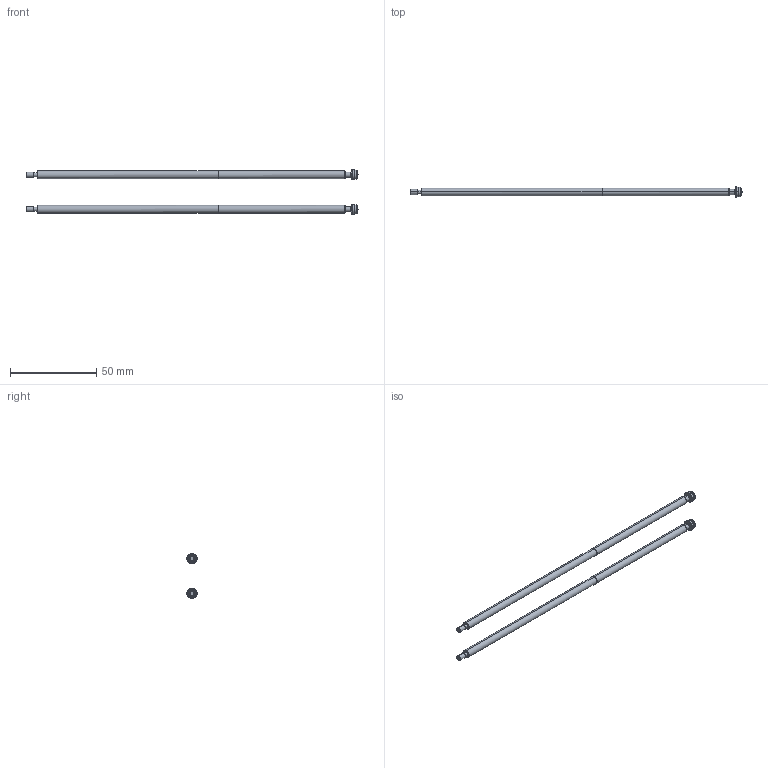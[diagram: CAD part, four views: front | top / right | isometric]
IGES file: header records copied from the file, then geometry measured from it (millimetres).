
Start section: ------------------------------------------------------------------------
Bounding box: 192.4 x 5.99 x 26 mm (x, y, z)
Volume: 5790.4 mm3; surface area: 6194.4 mm2
Topology: 6 solids, 6 shells, 144 faces, 288 edges, 166 vertices
Faces by surface type: bspline 144
